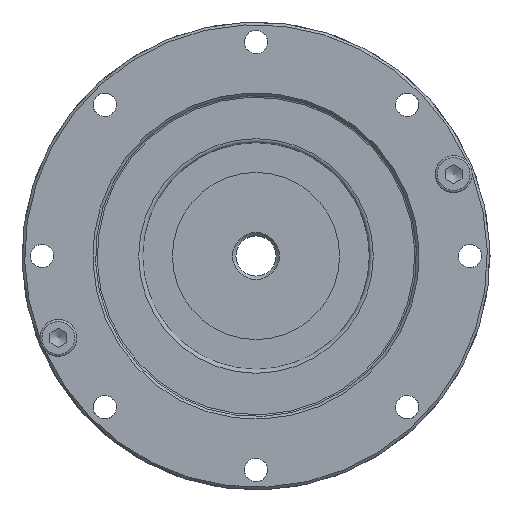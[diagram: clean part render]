
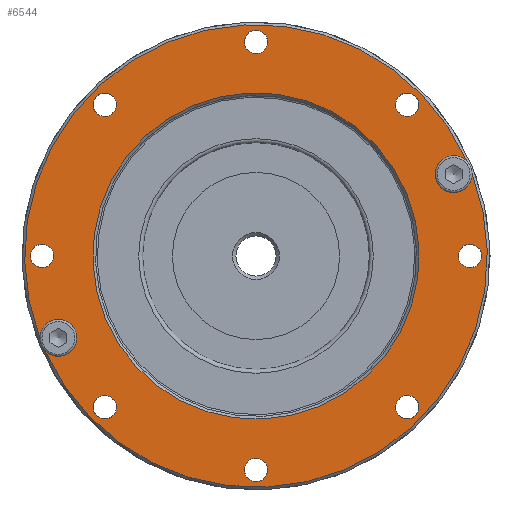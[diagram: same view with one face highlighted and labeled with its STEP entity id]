
A CAD part, left-side view. The second image highlights one B-rep face of the part: STEP entity #6544.
In plain terms, the highlighted planar face has unit normal (-1, 0, 0).
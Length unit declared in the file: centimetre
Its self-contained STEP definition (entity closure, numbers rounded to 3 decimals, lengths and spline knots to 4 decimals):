
#1647=FACE_BOUND('',#2239,.T.);
#1648=FACE_BOUND('',#2240,.T.);
#1649=FACE_BOUND('',#2241,.T.);
#1650=FACE_BOUND('',#2242,.T.);
#1651=FACE_BOUND('',#2243,.T.);
#1652=FACE_BOUND('',#2244,.T.);
#1653=FACE_BOUND('',#2245,.T.);
#1654=FACE_BOUND('',#2246,.T.);
#1655=FACE_BOUND('',#2247,.T.);
#1656=FACE_BOUND('',#2248,.T.);
#2239=EDGE_LOOP('',(#5941));
#2240=EDGE_LOOP('',(#5942));
#2241=EDGE_LOOP('',(#5943));
#2242=EDGE_LOOP('',(#5944));
#2243=EDGE_LOOP('',(#5945));
#2244=EDGE_LOOP('',(#5946));
#2245=EDGE_LOOP('',(#5947));
#2246=EDGE_LOOP('',(#5948));
#2247=EDGE_LOOP('',(#5949));
#2248=EDGE_LOOP('',(#5950,#5951,#5952,#5953,#5954,#5955));
#2699=CIRCLE('',#7254,0.275);
#2700=CIRCLE('',#7255,0.275);
#2705=CIRCLE('',#7269,0.175);
#2708=CIRCLE('',#7273,0.175);
#2711=CIRCLE('',#7277,0.175);
#2714=CIRCLE('',#7281,0.175);
#2717=CIRCLE('',#7285,0.175);
#2720=CIRCLE('',#7289,0.175);
#2744=CIRCLE('',#7320,0.175);
#2747=CIRCLE('',#7324,0.175);
#2751=CIRCLE('',#7331,3.46);
#2752=CIRCLE('',#7332,3.46);
#2754=CIRCLE('',#7335,2.44);
#2825=CIRCLE('',#7529,0.275);
#2826=CIRCLE('',#7530,0.275);
#3190=VERTEX_POINT('',#11321);
#3191=VERTEX_POINT('',#11322);
#3200=VERTEX_POINT('',#11344);
#3211=VERTEX_POINT('',#11394);
#3214=VERTEX_POINT('',#11401);
#3217=VERTEX_POINT('',#11408);
#3220=VERTEX_POINT('',#11415);
#3223=VERTEX_POINT('',#11422);
#3226=VERTEX_POINT('',#11429);
#3258=VERTEX_POINT('',#11500);
#3261=VERTEX_POINT('',#11507);
#3265=VERTEX_POINT('',#11517);
#3266=VERTEX_POINT('',#11520);
#3267=VERTEX_POINT('',#11524);
#3390=VERTEX_POINT('',#12001);
#3975=EDGE_CURVE('',#3200,#3190,#2699,.T.);
#3976=EDGE_CURVE('',#3191,#3200,#2700,.T.);
#3993=EDGE_CURVE('',#3211,#3211,#2705,.T.);
#3996=EDGE_CURVE('',#3214,#3214,#2708,.T.);
#3999=EDGE_CURVE('',#3217,#3217,#2711,.T.);
#4002=EDGE_CURVE('',#3220,#3220,#2714,.T.);
#4005=EDGE_CURVE('',#3223,#3223,#2717,.T.);
#4008=EDGE_CURVE('',#3226,#3226,#2720,.T.);
#4040=EDGE_CURVE('',#3258,#3258,#2744,.T.);
#4043=EDGE_CURVE('',#3261,#3261,#2747,.T.);
#4047=EDGE_CURVE('',#3265,#3190,#2751,.T.);
#4048=EDGE_CURVE('',#3191,#3266,#2752,.T.);
#4050=EDGE_CURVE('',#3267,#3267,#2754,.T.);
#4217=EDGE_CURVE('',#3265,#3390,#2825,.T.);
#4218=EDGE_CURVE('',#3390,#3266,#2826,.T.);
#5941=ORIENTED_EDGE('',*,*,#3993,.T.);
#5942=ORIENTED_EDGE('',*,*,#3996,.T.);
#5943=ORIENTED_EDGE('',*,*,#3999,.T.);
#5944=ORIENTED_EDGE('',*,*,#4002,.T.);
#5945=ORIENTED_EDGE('',*,*,#4005,.T.);
#5946=ORIENTED_EDGE('',*,*,#4008,.T.);
#5947=ORIENTED_EDGE('',*,*,#4040,.T.);
#5948=ORIENTED_EDGE('',*,*,#4043,.T.);
#5949=ORIENTED_EDGE('',*,*,#4050,.F.);
#5950=ORIENTED_EDGE('',*,*,#4217,.T.);
#5951=ORIENTED_EDGE('',*,*,#4218,.T.);
#5952=ORIENTED_EDGE('',*,*,#4048,.F.);
#5953=ORIENTED_EDGE('',*,*,#3976,.T.);
#5954=ORIENTED_EDGE('',*,*,#3975,.T.);
#5955=ORIENTED_EDGE('',*,*,#4047,.F.);
#6126=PLANE('',#7528);
#6544=ADVANCED_FACE('',(#1647,#1648,#1649,#1650,#1651,#1652,#1653,#1654,
#1655,#1656),#6126,.T.);
#7254=AXIS2_PLACEMENT_3D('',#11345,#9065,#9066);
#7255=AXIS2_PLACEMENT_3D('',#11346,#9067,#9068);
#7269=AXIS2_PLACEMENT_3D('',#11395,#9101,#9102);
#7273=AXIS2_PLACEMENT_3D('',#11402,#9109,#9110);
#7277=AXIS2_PLACEMENT_3D('',#11409,#9117,#9118);
#7281=AXIS2_PLACEMENT_3D('',#11416,#9125,#9126);
#7285=AXIS2_PLACEMENT_3D('',#11423,#9133,#9134);
#7289=AXIS2_PLACEMENT_3D('',#11430,#9141,#9142);
#7320=AXIS2_PLACEMENT_3D('',#11501,#9211,#9212);
#7324=AXIS2_PLACEMENT_3D('',#11508,#9219,#9220);
#7331=AXIS2_PLACEMENT_3D('',#11519,#9233,#9234);
#7332=AXIS2_PLACEMENT_3D('',#11521,#9235,#9236);
#7335=AXIS2_PLACEMENT_3D('',#11525,#9241,#9242);
#7528=AXIS2_PLACEMENT_3D('',#12000,#9691,#9692);
#7529=AXIS2_PLACEMENT_3D('',#12002,#9693,#9694);
#7530=AXIS2_PLACEMENT_3D('',#12003,#9695,#9696);
#9065=DIRECTION('center_axis',(1.,0.,0.));
#9066=DIRECTION('ref_axis',(0.,1.,0.));
#9067=DIRECTION('center_axis',(1.,0.,0.));
#9068=DIRECTION('ref_axis',(0.,1.,0.));
#9101=DIRECTION('center_axis',(1.,0.,0.));
#9102=DIRECTION('ref_axis',(0.,0.924,0.383));
#9109=DIRECTION('center_axis',(1.,0.,0.));
#9110=DIRECTION('ref_axis',(0.,0.924,-0.383));
#9117=DIRECTION('center_axis',(1.,0.,0.));
#9118=DIRECTION('ref_axis',(0.,0.383,-0.924));
#9125=DIRECTION('center_axis',(1.,0.,0.));
#9126=DIRECTION('ref_axis',(0.,-0.924,-0.383));
#9133=DIRECTION('center_axis',(1.,0.,0.));
#9134=DIRECTION('ref_axis',(0.,-0.924,0.383));
#9141=DIRECTION('center_axis',(1.,0.,0.));
#9142=DIRECTION('ref_axis',(0.,-0.383,0.924));
#9211=DIRECTION('center_axis',(1.,0.,0.));
#9212=DIRECTION('ref_axis',(0.,-0.383,-0.924));
#9219=DIRECTION('center_axis',(1.,0.,0.));
#9220=DIRECTION('ref_axis',(0.,0.383,0.924));
#9233=DIRECTION('center_axis',(1.,0.,0.));
#9234=DIRECTION('ref_axis',(0.,-0.924,0.383));
#9235=DIRECTION('center_axis',(1.,0.,0.));
#9236=DIRECTION('ref_axis',(0.,-0.924,0.383));
#9241=DIRECTION('center_axis',(-1.,0.,0.));
#9242=DIRECTION('ref_axis',(0.,-0.924,0.383));
#9691=DIRECTION('center_axis',(-1.,0.,0.));
#9692=DIRECTION('ref_axis',(0.,0.383,0.924));
#9693=DIRECTION('center_axis',(1.,0.,0.));
#9694=DIRECTION('ref_axis',(0.,1.,0.));
#9695=DIRECTION('center_axis',(1.,0.,0.));
#9696=DIRECTION('ref_axis',(0.,1.,0.));
#11321=CARTESIAN_POINT('',(-0.24,-3.3176,1.5394));
#11322=CARTESIAN_POINT('',(-0.24,-3.3889,1.3673));
#11344=CARTESIAN_POINT('',(-0.24,-2.8392,1.3544));
#11345=CARTESIAN_POINT('Origin',(-0.24,-3.1142,1.3544));
#11346=CARTESIAN_POINT('Origin',(-0.24,-3.1142,1.3544));
#11394=CARTESIAN_POINT('',(-0.24,0.0039,-3.0033));
#11395=CARTESIAN_POINT('Origin',(-0.24,-0.1578,
-3.0702));
#11401=CARTESIAN_POINT('',(-0.24,-2.2588,-2.1999));
#11402=CARTESIAN_POINT('Origin',(-0.24,-2.4205,-2.133));
#11408=CARTESIAN_POINT('',(-0.24,-3.2908,-0.0319));
#11409=CARTESIAN_POINT('Origin',(-0.24,-3.3578,0.1298));
#11415=CARTESIAN_POINT('',(-0.24,-0.3195,3.2628));
#11416=CARTESIAN_POINT('Origin',(-0.24,-0.1578,
3.3298));
#11422=CARTESIAN_POINT('',(-0.24,1.9433,2.4595));
#11423=CARTESIAN_POINT('Origin',(-0.24,2.105,2.3925));
#11429=CARTESIAN_POINT('',(-0.24,2.9752,0.2915));
#11430=CARTESIAN_POINT('Origin',(-0.24,3.0422,0.1298));
#11500=CARTESIAN_POINT('',(-0.24,-2.4875,2.2308));
#11501=CARTESIAN_POINT('Origin',(-0.24,-2.4205,2.3925));
#11507=CARTESIAN_POINT('',(-0.24,2.1719,-1.9713));
#11508=CARTESIAN_POINT('Origin',(-0.24,2.105,-2.133));
#11517=CARTESIAN_POINT('',(-0.24,3.0733,-1.1078));
#11519=CARTESIAN_POINT('Origin',(-0.24,-0.1578,0.1298));
#11520=CARTESIAN_POINT('',(-0.24,3.002,-1.2799));
#11521=CARTESIAN_POINT('Origin',(-0.24,-0.1578,0.1298));
#11524=CARTESIAN_POINT('',(-0.24,2.0965,-0.804));
#11525=CARTESIAN_POINT('Origin',(-0.24,-0.1578,0.1298));
#12000=CARTESIAN_POINT('Origin',(-0.24,3.0758,-1.2096));
#12001=CARTESIAN_POINT('',(-0.24,3.0736,-1.0948));
#12002=CARTESIAN_POINT('Origin',(-0.24,2.7986,-1.0948));
#12003=CARTESIAN_POINT('Origin',(-0.24,2.7986,-1.0948));
